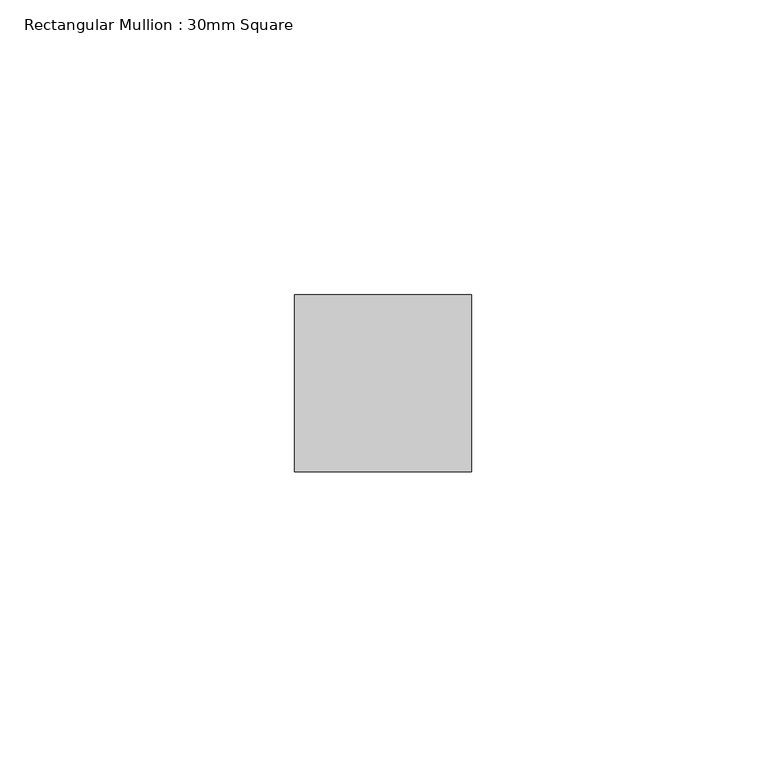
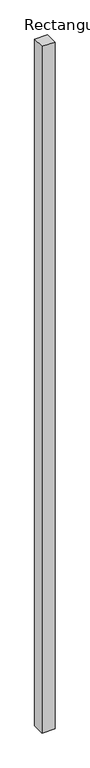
"""IFC4 building model written with IfcOpenShell, lengths in millimetres: member geometry, Rectangular Mullion : 30mm Square."""

from ifc_helpers import new_model, si_unit, frame, origin, place, context, project, spatial, polyline, outline, extrude, source, transform, mapped, element, save


def rectangular_mullion_30mm_square_ca72388b(model_context):
    return source(origin(), model_context, "Body", "SweptSolid", [
        extrude(outline(polyline([(0.0, 15.0), (0.0, -15.0), (-30.0, -15.0), (-30.0, 15.0), (0.0, 15.0)])), frame((0.0, 0.0, -1700.0), z_axis=(0.0, 0.0, 1.0), x_axis=(1.0, 0.0, 0.0)), (0.0, 0.0, 1.0), 1700.0),
    ])


if __name__ == "__main__":
    model = new_model("IFC4")
    model_context = context("Model", 3, world=origin())
    ifc_project = project(units=[si_unit("LENGTHUNIT", "METRE", prefix="MILLI")], contexts=[model_context])
    site = spatial("IfcSite", under=ifc_project)
    building = spatial("IfcBuilding", under=site)
    placement = place(None, origin())
    rectangular_mullion_30mm_square_shape = rectangular_mullion_30mm_square_ca72388b(model_context)
    element("IfcMember", 1, ObjectType="Rectangular Mullion : 30mm Square", at=placement, inside=building, context=model_context, shape_type="MappedRepresentation", body=[
        mapped(rectangular_mullion_30mm_square_shape, transform((0.0, 0.0, 0.0), x_axis=(1.0, 0.0, 0.0), y_axis=(0.0, 1.0, 0.0), z_axis=(0.0, 0.0, 1.0))),
    ])
    save(model, "model.ifc")
